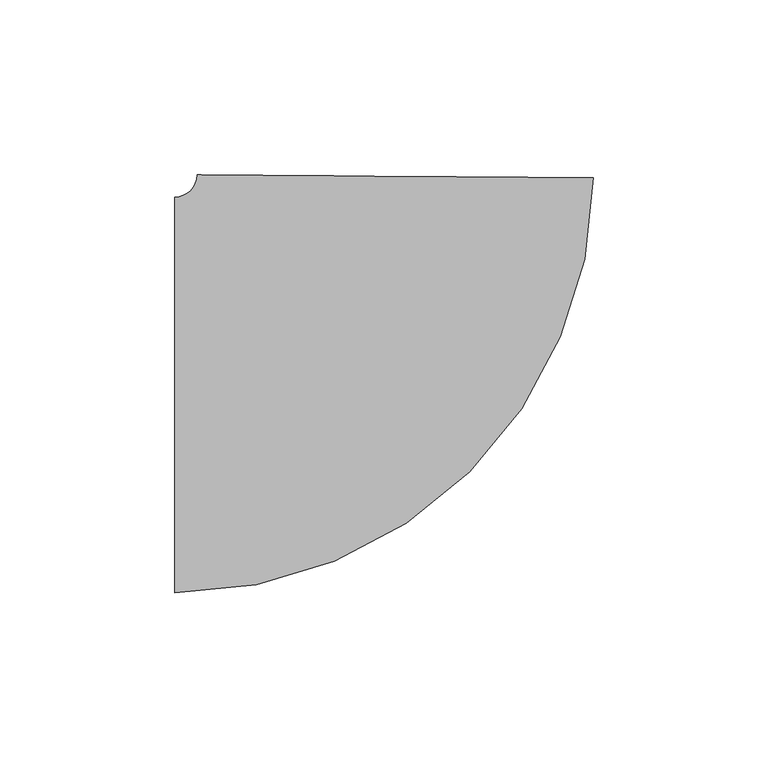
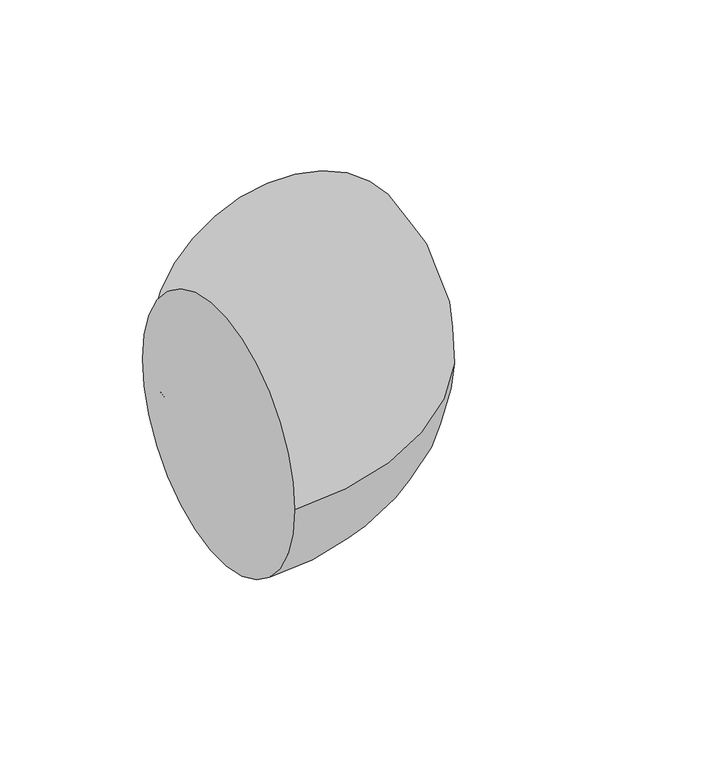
"""IFC4 building model written with IfcOpenShell, lengths in millimetres: pipe fitting geometry, M_Codo - Genérico : Estándar."""

from ifc_helpers import new_model, si_unit, point, frame, origin, place, context, project, spatial, circle_curve, ellipse_curve, trimmed, source, transform, mapped, element, save
from ifc_brep_helpers import plane_surface, revolved_surface, advanced_brep


def pipe_fitting_8d725a5c(model_context):
    return source(origin(), model_context, "Body", "AdvancedBrep", [
        advanced_brep(
        [(-62.4754801, -56.5875, 0.0), (-62.4754801, 56.5875, 0.0), (57.0462756, 62.0568546, 0.0), (-56.1256524, 62.890714, 0.0)],
        [
            (0, 1, circle_curve(frame((-62.4754801, 0.0, 0.0), z_axis=(-1.0, 0.0, 0.0), x_axis=(0.0, 1.0, 0.0)), 56.5875)),
            (1, 0, circle_curve(frame((-62.4754801, 0.0, 0.0), z_axis=(-1.0, 0.0, 0.0), x_axis=(0.0, 1.0, 0.0)), 56.5875)),
            (2, 3, circle_curve(frame((0.4603116, 62.4737843, 0.0), z_axis=(0.007367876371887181, 0.9999728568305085, 0.0), x_axis=(-0.9999728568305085, 0.007367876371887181, 0.0)), 56.5875)),
            (3, 2, circle_curve(frame((0.4603116, 62.4737843, 0.0), z_axis=(0.007367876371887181, 0.9999728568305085, 0.0), x_axis=(-0.9999728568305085, 0.007367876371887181, 0.0)), 56.5875)),
            (3, 1, circle_curve(frame((-62.4754801, 62.9375, 0.0), z_axis=(0.0, 0.0, -1.0), x_axis=(0.0, -1.0, 0.0)), 6.35)),
            (0, 2, circle_curve(frame((-62.4754801, 62.9375, 0.0), z_axis=(0.0, 0.0, 1.0), x_axis=(0.0, -1.0, 0.0)), 119.525)),
        ],
        [
            plane_surface(frame((-62.4754801, 0.0, 0.0), z_axis=(-1.0, 0.0, 0.0), x_axis=(0.0, 0.0, 1.0))),
            plane_surface(frame((0.4603116, 62.4737843, 0.0), z_axis=(0.007367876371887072, 0.9999728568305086, 0.0), x_axis=(0.0, 0.0, 1.0))),
            revolved_surface(trimmed(ellipse_curve(frame((-62.4754801, 0.0, 0.0), z_axis=(-1.0, 0.0, 0.0), x_axis=(0.0, 1.0, 0.0)), 56.5875, 56.5875), [point((-62.4754801, -56.5875, 0.0))], [point((-62.4754801, 56.5875, 0.0))], True, "CARTESIAN"), (-62.4754801, 62.9375, 0.0), (0.0, 0.0, 1.0)),
            revolved_surface(trimmed(ellipse_curve(frame((-62.4754801, 0.0, 0.0), z_axis=(-1.0, 0.0, 0.0), x_axis=(0.0, 1.0, 0.0)), 56.5875, 56.5875), [point((-62.4754801, 56.5875, 0.0))], [point((-62.4754801, -56.5875, 0.0))], True, "CARTESIAN"), (-62.4754801, 62.9375, 0.0), (0.0, 0.0, 1.0)),
        ],
        [
            (0, [[1, 2]]),
            (1, [[3, 4]]),
            (2, [[5, -1, 6, -4]]),
            (3, [[-6, -2, -5, -3]]),
        ],
    ),
    ])


if __name__ == "__main__":
    model = new_model("IFC4")
    model_context = context("Model", 3, world=origin())
    ifc_project = project(units=[si_unit("LENGTHUNIT", "METRE", prefix="MILLI")], contexts=[model_context])
    site = spatial("IfcSite", under=ifc_project)
    building = spatial("IfcBuilding", under=site)
    placement = place(None, origin())
    pipe_fitting_shape = pipe_fitting_8d725a5c(model_context)
    element("IfcPipeFitting", 1, ObjectType="M_Codo - Genérico : Estándar", at=placement, inside=building, context=model_context, shape_type="MappedRepresentation", body=[
        mapped(pipe_fitting_shape, transform((0.0, 0.0, 0.0), x_axis=(1.0, 0.0, 0.0), y_axis=(0.0, 1.0, 0.0), z_axis=(0.0, 0.0, 1.0))),
    ])
    save(model, "model.ifc")
